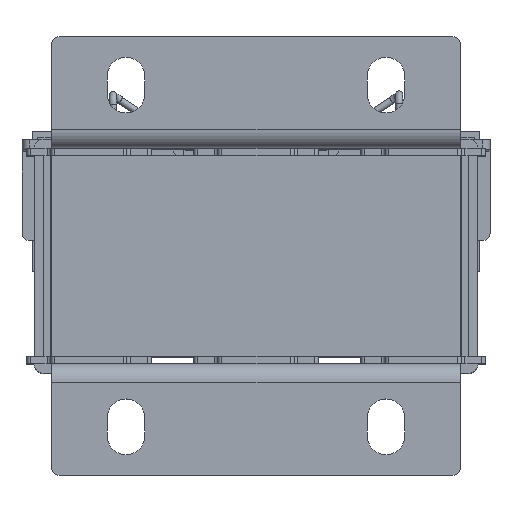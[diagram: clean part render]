
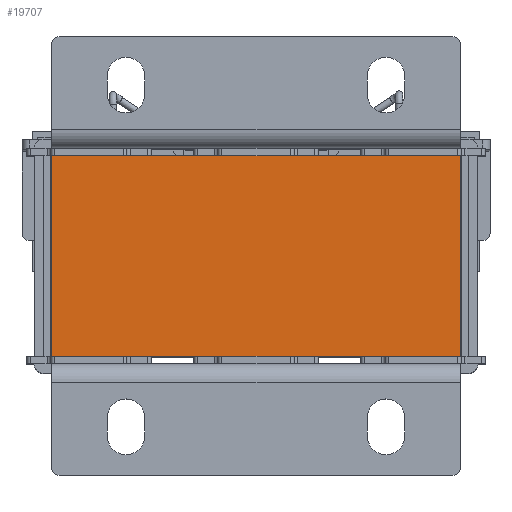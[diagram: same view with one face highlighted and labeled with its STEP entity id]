
A CAD part, top view. The second image highlights one B-rep face of the part: STEP entity #19707.
In plain terms, the highlighted planar face has unit normal (0, 0, 1) as drawn and (0, -1, 0) by its records, which use the part's own axes.
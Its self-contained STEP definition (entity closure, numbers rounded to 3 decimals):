
#4444 = DIRECTION ( 'NONE',  ( 0., 0., -1. ) ) ;
#4865 = LINE ( 'NONE', #15061, #31703 ) ;
#6120 = DIRECTION ( 'NONE',  ( 0., 0., -1. ) ) ;
#7235 = DIRECTION ( 'NONE',  ( 1., 0., 0. ) ) ;
#7954 = VERTEX_POINT ( 'NONE', #35969 ) ;
#8522 = VECTOR ( 'NONE', #6120, 1000. ) ;
#8736 = VECTOR ( 'NONE', #7235, 1000. ) ;
#11207 = CARTESIAN_POINT ( 'NONE',  ( 55., -61.45, 54. ) ) ;
#11736 = CARTESIAN_POINT ( 'NONE',  ( -55., -61.45, 54. ) ) ;
#12325 = LINE ( 'NONE', #33288, #34239 ) ;
#13099 = EDGE_CURVE ( 'NONE', #38748, #40540, #12325, .T. ) ;
#15061 = CARTESIAN_POINT ( 'NONE',  ( -55., -61.45, 54. ) ) ;
#15593 = ORIENTED_EDGE ( 'NONE', *, *, #13099, .F. ) ;
#15890 = DIRECTION ( 'NONE',  ( 1., 0., 0. ) ) ;
#16552 = CARTESIAN_POINT ( 'NONE',  ( 55., -61.45, 54. ) ) ;
#16972 = LINE ( 'NONE', #16552, #8522 ) ;
#17459 = FACE_OUTER_BOUND ( 'NONE', #38210, .T. ) ;
#17668 = DIRECTION ( 'NONE',  ( 0., 1., 0. ) ) ;
#17835 = VERTEX_POINT ( 'NONE', #27525 ) ;
#18705 = ORIENTED_EDGE ( 'NONE', *, *, #23834, .T. ) ;
#19707 = ADVANCED_FACE ( 'NONE', ( #17459 ), #28145, .F. ) ;
#20588 = CARTESIAN_POINT ( 'NONE',  ( 55., -61.45, 54. ) ) ;
#23834 = EDGE_CURVE ( 'NONE', #17835, #7954, #30873, .T. ) ;
#24090 = DIRECTION ( 'NONE',  ( -1., 0., 0. ) ) ;
#25507 = EDGE_CURVE ( 'NONE', #38748, #17835, #4865, .T. ) ;
#27525 = CARTESIAN_POINT ( 'NONE',  ( -55., -61.45, 0. ) ) ;
#28145 = PLANE ( 'NONE',  #41423 ) ;
#30873 = LINE ( 'NONE', #41322, #8736 ) ;
#31703 = VECTOR ( 'NONE', #4444, 1000. ) ;
#33288 = CARTESIAN_POINT ( 'NONE',  ( 55., -61.45, 54. ) ) ;
#34239 = VECTOR ( 'NONE', #15890, 1000. ) ;
#34599 = ORIENTED_EDGE ( 'NONE', *, *, #25507, .T. ) ;
#35969 = CARTESIAN_POINT ( 'NONE',  ( 55., -61.45, 0. ) ) ;
#38128 = EDGE_CURVE ( 'NONE', #40540, #7954, #16972, .T. ) ;
#38210 = EDGE_LOOP ( 'NONE', ( #18705, #43020, #15593, #34599 ) ) ;
#38748 = VERTEX_POINT ( 'NONE', #11736 ) ;
#40540 = VERTEX_POINT ( 'NONE', #20588 ) ;
#41322 = CARTESIAN_POINT ( 'NONE',  ( 55., -61.45, 0. ) ) ;
#41423 = AXIS2_PLACEMENT_3D ( 'NONE', #11207, #17668, #24090 ) ;
#43020 = ORIENTED_EDGE ( 'NONE', *, *, #38128, .F. ) ;
